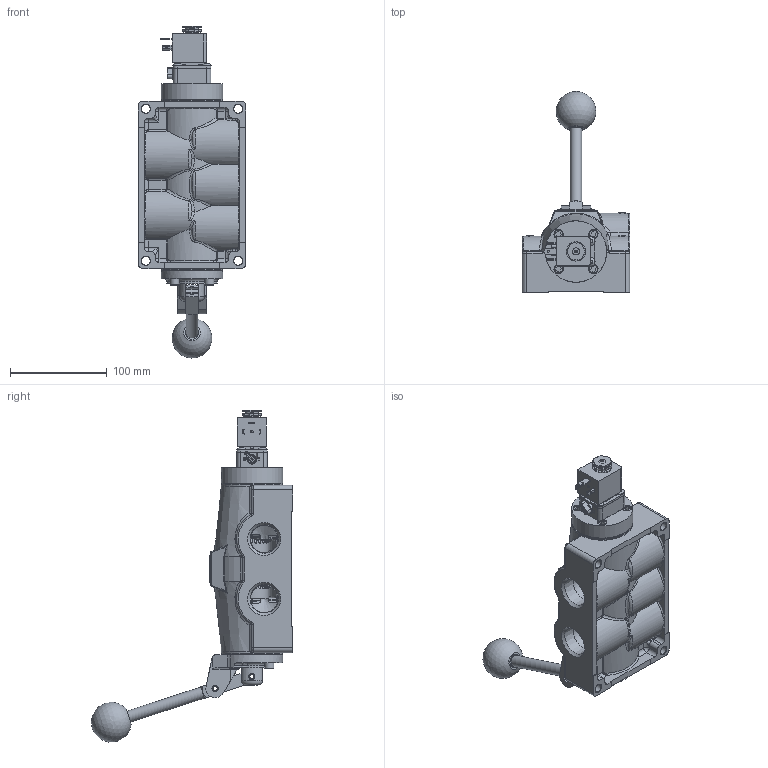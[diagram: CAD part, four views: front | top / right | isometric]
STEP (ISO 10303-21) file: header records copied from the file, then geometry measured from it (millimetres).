
FILE_DESCRIPTION(/* description */ (''),/* implementation_level */ '2;1');
FILE_NAME(/* name */ 'D:\Engineering\Product\valves\Assembly\Standard\ESAH\stp\ESAH8HOC.stp',/* time_stamp */ '2021-04-15T08:25:21-04:00',/* author */ ('RMcKenna'),/* organization */ (''),/* preprocessor_version */ 'ST-DEVELOPER v18.1',/* originating_system */ 'Autodesk Inventor 2021',/* authorisation */ '');
FILE_SCHEMA (('AUTOMOTIVE_DESIGN { 1 0 10303 214 3 1 1 }'));
Products named in the file (1): Part21
Bounding box: 111.12 x 208.05 x 343.35 mm (x, y, z)
Volume: 1122814.6 mm3; surface area: 228901.3 mm2
Topology: 1 solids, 34 shells, 2632 faces, 6440 edges, 3965 vertices
Faces by surface type: plane 924, cylinder 721, cone 347, bspline 339, torus 212, sphere 89
Full cylindrical faces by diameter (mm): 1.168 x10, 1.3 x1, 1.397 x1, 1.5 x1, 1.651 x2, 2.032 x8, 2.07 x2, 2.261 x2, 2.35 x4, 2.388 x1, 2.5 x2, 2.778 x2, 2.8 x1, 3 x4, 3.048 x3, 3.175 x2, 3.4 x1, 3.683 x5, 3.962 x2, 4.191 x2, 4.826 x4, 4.978 x9, 5.15 x4, 5.156 x4, 5.5 x1, 6.35 x12, 6.65 x1, 6.747 x4, 7.137 x4, 7.144 x8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
Entity records: 104531 total; most frequent: CARTESIAN_POINT 41938, ORIENTED_EDGE 12732, DIRECTION 12054, EDGE_CURVE 6366, AXIS2_PLACEMENT_3D 4702, VERTEX_POINT 3965, EDGE_LOOP 2909, LINE 2650
